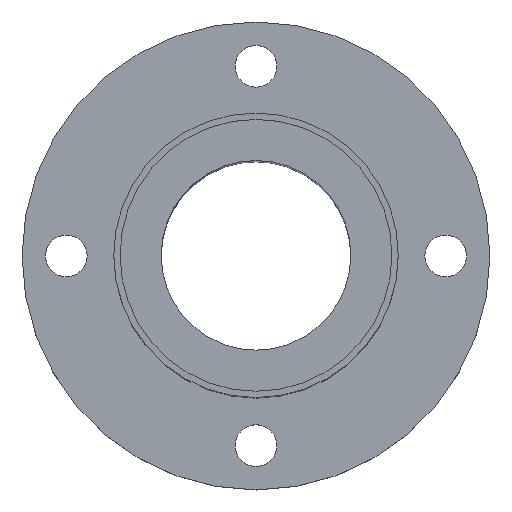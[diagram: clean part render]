
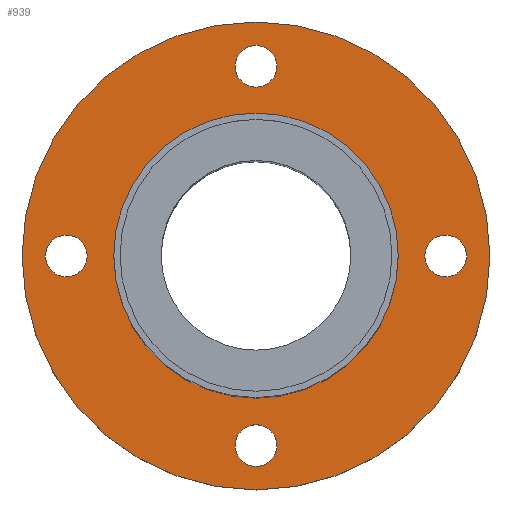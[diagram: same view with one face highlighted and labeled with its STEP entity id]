
A CAD part, top view. The second image highlights one B-rep face of the part: STEP entity #939.
In plain terms, the highlighted planar face has unit normal (0, 0, 1).
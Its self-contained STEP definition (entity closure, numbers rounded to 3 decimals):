
#49=CARTESIAN_POINT('',(-25.299,9.056,66.5));
#50=VERTEX_POINT('',#49);
#59=CARTESIAN_POINT('',(19.701,9.056,66.5));
#60=VERTEX_POINT('',#59);
#61=CARTESIAN_POINT('',(-2.799,9.056,66.5));
#62=DIRECTION('',(0.0,0.0,1.0));
#63=DIRECTION('',(-1.0,0.0,0.0));
#64=AXIS2_PLACEMENT_3D('',#61,#62,#63);
#65=CIRCLE('',#64,22.5);
#66=EDGE_CURVE('',#50,#60,#65,.T.);
#259=CARTESIAN_POINT('',(-39.799,9.056,66.5));
#260=VERTEX_POINT('',#259);
#269=CARTESIAN_POINT('',(34.201,9.056,66.5));
#270=VERTEX_POINT('',#269);
#271=CARTESIAN_POINT('',(-2.799,9.056,66.5));
#272=DIRECTION('',(0.0,0.0,-1.0));
#273=DIRECTION('',(-1.0,0.0,0.0));
#274=AXIS2_PLACEMENT_3D('',#271,#272,#273);
#275=CIRCLE('',#274,37.0);
#276=EDGE_CURVE('',#260,#270,#275,.T.);
#301=CARTESIAN_POINT('',(30.501,9.056,66.5));
#302=VERTEX_POINT('',#301);
#311=CARTESIAN_POINT('',(23.901,9.056,66.5));
#312=VERTEX_POINT('',#311);
#313=CARTESIAN_POINT('',(27.201,9.056,66.5));
#314=DIRECTION('',(0.0,0.0,-1.0));
#315=DIRECTION('',(1.0,0.0,0.0));
#316=AXIS2_PLACEMENT_3D('',#313,#314,#315);
#317=CIRCLE('',#316,3.3);
#318=EDGE_CURVE('',#312,#302,#317,.T.);
#385=CARTESIAN_POINT('',(-2.799,-24.244,66.5));
#386=VERTEX_POINT('',#385);
#395=CARTESIAN_POINT('',(-2.799,-17.644,66.5));
#396=VERTEX_POINT('',#395);
#397=CARTESIAN_POINT('',(-2.799,-20.944,66.5));
#398=DIRECTION('',(0.0,0.0,-1.0));
#399=DIRECTION('',(0.0,-1.0,0.0));
#400=AXIS2_PLACEMENT_3D('',#397,#398,#399);
#401=CIRCLE('',#400,3.3);
#402=EDGE_CURVE('',#396,#386,#401,.T.);
#469=CARTESIAN_POINT('',(-36.099,9.056,66.5));
#470=VERTEX_POINT('',#469);
#479=CARTESIAN_POINT('',(-29.499,9.056,66.5));
#480=VERTEX_POINT('',#479);
#481=CARTESIAN_POINT('',(-32.799,9.056,66.5));
#482=DIRECTION('',(0.0,0.0,-1.0));
#483=DIRECTION('',(-1.0,0.0,0.0));
#484=AXIS2_PLACEMENT_3D('',#481,#482,#483);
#485=CIRCLE('',#484,3.3);
#486=EDGE_CURVE('',#480,#470,#485,.T.);
#553=CARTESIAN_POINT('',(-2.799,42.356,66.5));
#554=VERTEX_POINT('',#553);
#563=CARTESIAN_POINT('',(-2.799,35.756,66.5));
#564=VERTEX_POINT('',#563);
#565=CARTESIAN_POINT('',(-2.799,39.056,66.5));
#566=DIRECTION('',(0.0,0.0,-1.0));
#567=DIRECTION('',(0.0,1.0,0.0));
#568=AXIS2_PLACEMENT_3D('',#565,#566,#567);
#569=CIRCLE('',#568,3.3);
#570=EDGE_CURVE('',#564,#554,#569,.T.);
#684=CARTESIAN_POINT('',(-2.799,39.056,66.5));
#685=DIRECTION('',(0.0,0.0,-1.0));
#686=DIRECTION('',(0.0,1.0,0.0));
#687=AXIS2_PLACEMENT_3D('',#684,#685,#686);
#688=CIRCLE('',#687,3.3);
#689=EDGE_CURVE('',#554,#564,#688,.T.);
#746=CARTESIAN_POINT('',(-32.799,9.056,66.5));
#747=DIRECTION('',(0.0,0.0,-1.0));
#748=DIRECTION('',(-1.0,0.0,0.0));
#749=AXIS2_PLACEMENT_3D('',#746,#747,#748);
#750=CIRCLE('',#749,3.3);
#751=EDGE_CURVE('',#470,#480,#750,.T.);
#808=CARTESIAN_POINT('',(-2.799,-20.944,66.5));
#809=DIRECTION('',(0.0,0.0,-1.0));
#810=DIRECTION('',(0.0,-1.0,0.0));
#811=AXIS2_PLACEMENT_3D('',#808,#809,#810);
#812=CIRCLE('',#811,3.3);
#813=EDGE_CURVE('',#386,#396,#812,.T.);
#870=CARTESIAN_POINT('',(27.201,9.056,66.5));
#871=DIRECTION('',(0.0,0.0,-1.0));
#872=DIRECTION('',(1.0,0.0,0.0));
#873=AXIS2_PLACEMENT_3D('',#870,#871,#872);
#874=CIRCLE('',#873,3.3);
#875=EDGE_CURVE('',#302,#312,#874,.T.);
#894=CARTESIAN_POINT('',(-2.799,9.056,66.5));
#895=DIRECTION('',(0.0,0.0,-1.0));
#896=DIRECTION('',(-1.0,0.0,0.0));
#897=AXIS2_PLACEMENT_3D('',#894,#895,#896);
#898=CIRCLE('',#897,37.0);
#899=EDGE_CURVE('',#270,#260,#898,.T.);
#904=CARTESIAN_POINT('',(-2.799,9.056,66.5));
#905=DIRECTION('',(0.0,0.0,-1.0));
#906=DIRECTION('',(-1.0,0.0,0.0));
#907=AXIS2_PLACEMENT_3D('',#904,#905,#906);
#908=PLANE('',#907);
#909=ORIENTED_EDGE('',*,*,#899,.F.);
#910=ORIENTED_EDGE('',*,*,#276,.F.);
#911=EDGE_LOOP('',(#909,#910));
#912=FACE_OUTER_BOUND('',#911,.T.);
#913=ORIENTED_EDGE('',*,*,#570,.T.);
#914=ORIENTED_EDGE('',*,*,#689,.T.);
#915=EDGE_LOOP('',(#913,#914));
#916=FACE_BOUND('',#915,.T.);
#917=ORIENTED_EDGE('',*,*,#486,.T.);
#918=ORIENTED_EDGE('',*,*,#751,.T.);
#919=EDGE_LOOP('',(#917,#918));
#920=FACE_BOUND('',#919,.T.);
#921=ORIENTED_EDGE('',*,*,#402,.T.);
#922=ORIENTED_EDGE('',*,*,#813,.T.);
#923=EDGE_LOOP('',(#921,#922));
#924=FACE_BOUND('',#923,.T.);
#925=ORIENTED_EDGE('',*,*,#318,.T.);
#926=ORIENTED_EDGE('',*,*,#875,.T.);
#927=EDGE_LOOP('',(#925,#926));
#928=FACE_BOUND('',#927,.T.);
#929=CARTESIAN_POINT('',(-2.799,9.056,66.5));
#930=DIRECTION('',(0.0,0.0,1.0));
#931=DIRECTION('',(-1.0,0.0,0.0));
#932=AXIS2_PLACEMENT_3D('',#929,#930,#931);
#933=CIRCLE('',#932,22.5);
#934=EDGE_CURVE('',#60,#50,#933,.T.);
#935=ORIENTED_EDGE('',*,*,#934,.F.);
#936=ORIENTED_EDGE('',*,*,#66,.F.);
#937=EDGE_LOOP('',(#935,#936));
#938=FACE_BOUND('',#937,.T.);
#939=ADVANCED_FACE('',(#912,#916,#920,#924,#928,#938),#908,.F.);
